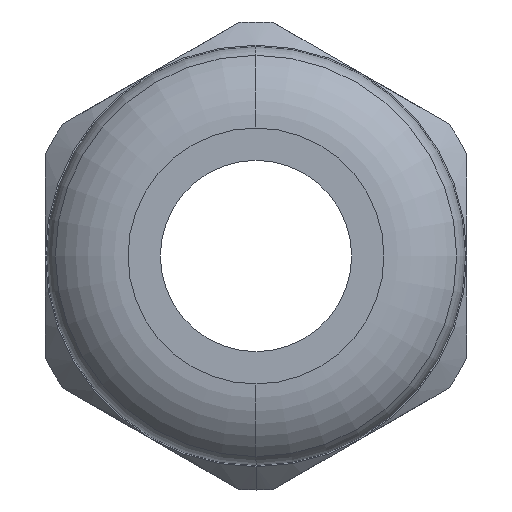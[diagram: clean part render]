
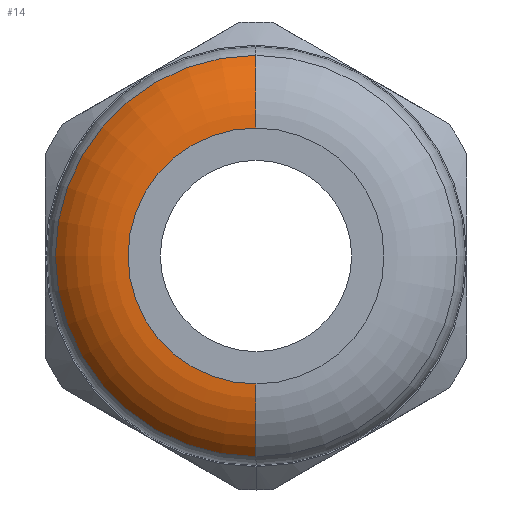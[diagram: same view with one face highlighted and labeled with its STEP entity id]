
A CAD part, left-side view. The second image highlights one B-rep face of the part: STEP entity #14.
In plain terms, the highlighted toroidal (fillet/blend) face has major radius 8.195 mm and minor radius 5.972 mm.
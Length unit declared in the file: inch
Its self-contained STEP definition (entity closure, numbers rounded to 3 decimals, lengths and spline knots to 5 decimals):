
#8 = ORIENTED_EDGE ( 'NONE', *, *, #2381, .T. ) ;
#12 = EDGE_CURVE ( 'NONE', #2353, #19, #885, .T. ) ;
#14 = ADVANCED_FACE ( 'NONE', ( #933 ), #914, .T. ) ;
#18 = VERTEX_POINT ( 'NONE', #963 ) ;
#19 = VERTEX_POINT ( 'NONE', #962 ) ;
#21 = ORIENTED_EDGE ( 'NONE', *, *, #12, .T. ) ;
#23 = ORIENTED_EDGE ( 'NONE', *, *, #39, .F. ) ;
#24 = ORIENTED_EDGE ( 'NONE', *, *, #29, .F. ) ;
#29 = EDGE_CURVE ( 'NONE', #2352, #18, #955, .T. ) ;
#30 = EDGE_LOOP ( 'NONE', ( #8, #21, #23, #24 ) ) ;
#39 = EDGE_CURVE ( 'NONE', #18, #19, #6942, .T. ) ;
#881 = DIRECTION ( 'NONE',  ( 0., 0., 1. ) ) ;
#882 = DIRECTION ( 'NONE',  ( 0., 1., 0. ) ) ;
#883 = CARTESIAN_POINT ( 'NONE',  ( 0.23514, 0., -0.32264 ) ) ;
#884 = AXIS2_PLACEMENT_3D ( 'NONE', #883, #882, #881 ) ;
#885 = CIRCLE ( 'NONE', #884, 0.23514 ) ;
#911 = DIRECTION ( 'NONE',  ( 0., 0., 1. ) ) ;
#912 = DIRECTION ( 'NONE',  ( -1., 0., 0. ) ) ;
#913 = AXIS2_PLACEMENT_3D ( 'NONE', #915, #912, #911 ) ;
#914 = TOROIDAL_SURFACE ( 'NONE', #913, 0.32264, 0.23514 ) ;
#915 = CARTESIAN_POINT ( 'NONE',  ( 0.23514, 0., 0. ) ) ;
#933 = FACE_OUTER_BOUND ( 'NONE', #30, .T. ) ;
#951 = DIRECTION ( 'NONE',  ( 0., 0., -1. ) ) ;
#952 = DIRECTION ( 'NONE',  ( 0., -1., 0. ) ) ;
#953 = CARTESIAN_POINT ( 'NONE',  ( 0.23514, 0., 0.32264 ) ) ;
#954 = AXIS2_PLACEMENT_3D ( 'NONE', #953, #952, #951 ) ;
#955 = CIRCLE ( 'NONE', #954, 0.23514 ) ;
#962 = CARTESIAN_POINT ( 'NONE',  ( 0., 0., -0.32264 ) ) ;
#963 = CARTESIAN_POINT ( 'NONE',  ( 0., 0., 0.32264 ) ) ;
#2352 = VERTEX_POINT ( 'NONE', #5247 ) ;
#2353 = VERTEX_POINT ( 'NONE', #5246 ) ;
#2381 = EDGE_CURVE ( 'NONE', #2352, #2353, #5293, .T. ) ;
#5246 = CARTESIAN_POINT ( 'NONE',  ( 0.0879, 0., -0.50597 ) ) ;
#5247 = CARTESIAN_POINT ( 'NONE',  ( 0.0879, 0., 0.50597 ) ) ;
#5289 = DIRECTION ( 'NONE',  ( 0., 0., -1. ) ) ;
#5290 = DIRECTION ( 'NONE',  ( -1., 0., 0. ) ) ;
#5291 = CARTESIAN_POINT ( 'NONE',  ( 0.0879, 0., 0. ) ) ;
#5292 = AXIS2_PLACEMENT_3D ( 'NONE', #5291, #5290, #5289 ) ;
#5293 = CIRCLE ( 'NONE', #5292, 0.50597 ) ;
#6921 = DIRECTION ( 'NONE',  ( 0., 0., 1. ) ) ;
#6926 = DIRECTION ( 'NONE',  ( -1., 0., 0. ) ) ;
#6932 = AXIS2_PLACEMENT_3D ( 'NONE', #6952, #6926, #6921 ) ;
#6942 = CIRCLE ( 'NONE', #6932, 0.32264 ) ;
#6952 = CARTESIAN_POINT ( 'NONE',  ( 0., 0., 0. ) ) ;
